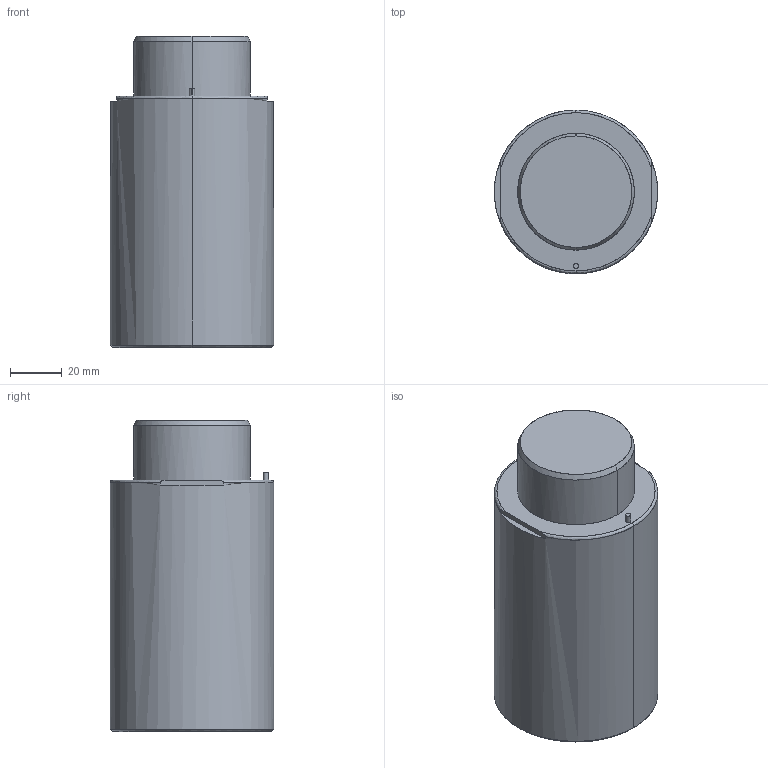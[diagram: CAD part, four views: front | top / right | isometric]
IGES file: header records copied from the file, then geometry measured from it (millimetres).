
Global section: file name: E:\UnigraphicsGraphicData\MISUMI_PRESS-PARTS\IGES\3d_gsx63-20_03979_r00.igs; native system: NX V5.0; preprocessor: UGS NX IGES V5.0; author: MISUMI; date: 20110105.160830; units: millimetre
Bounding box: 63 x 63 x 120 mm (x, y, z)
Surface area: 30095.9 mm2 (no closed solid volume)
Topology: 0 solids, 0 shells, 59 faces, 428 edges, 420 vertices
Faces by surface type: bspline 59
